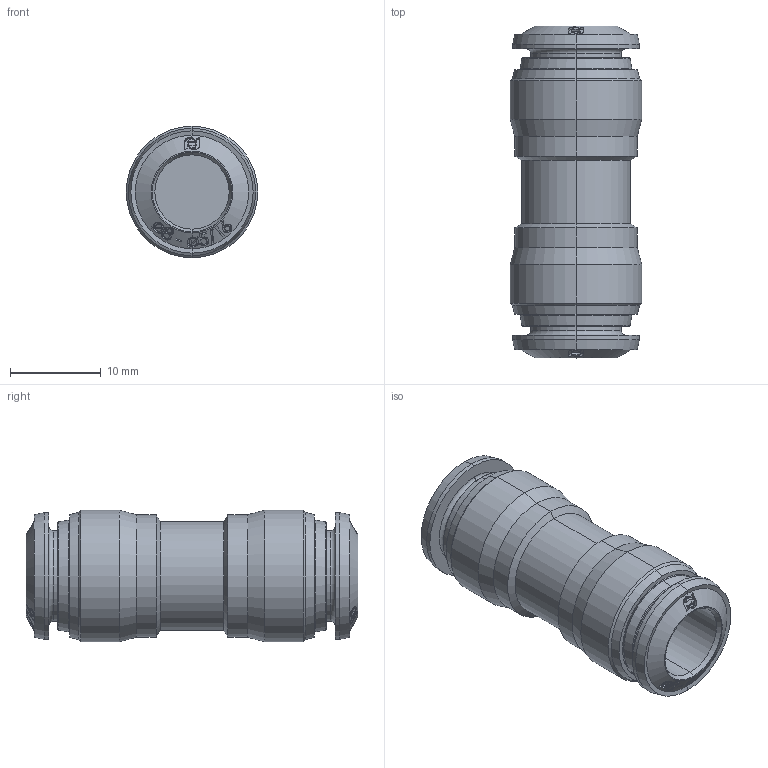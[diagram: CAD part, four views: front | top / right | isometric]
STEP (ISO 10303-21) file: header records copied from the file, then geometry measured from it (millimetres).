
FILE_DESCRIPTION (( 'STEP AP214' ), '1' );
FILE_NAME ('5004000005.step', '2012-10-01T16:42:38', ( '' ), ( '' ), 'SwSTEP 2.0', 'SolidWorks 2012', '' );
FILE_SCHEMA (( 'AUTOMOTIVE_DESIGN' ));
Length unit declared in the file: millimetre
Products named in the file (1): 5004000005
Bounding box: 14.5 x 36.6 x 14.5 mm (x, y, z)
Volume: 4119.7 mm3; surface area: 2970.7 mm2
Topology: 1 solids, 3 shells, 380 faces, 950 edges, 612 vertices
Faces by surface type: bspline 222, cone 86, cylinder 42, plane 18, torus 12
Entity records: 26740 total; most frequent: CARTESIAN_POINT 15389, ORIENTED_EDGE 1900, EDGE_CURVE 950, DIRECTION 710, B_SPLINE_CURVE_WITH_KNOTS 702, VERTEX_POINT 612, EDGE_LOOP 420, UNCERTAINTY_MEASURE_WITH_UNIT 383
